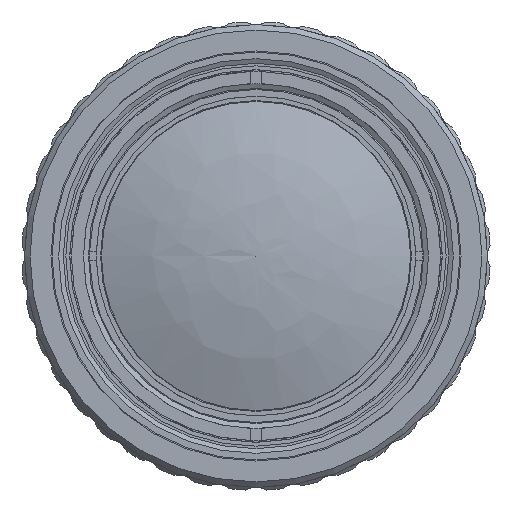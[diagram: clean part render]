
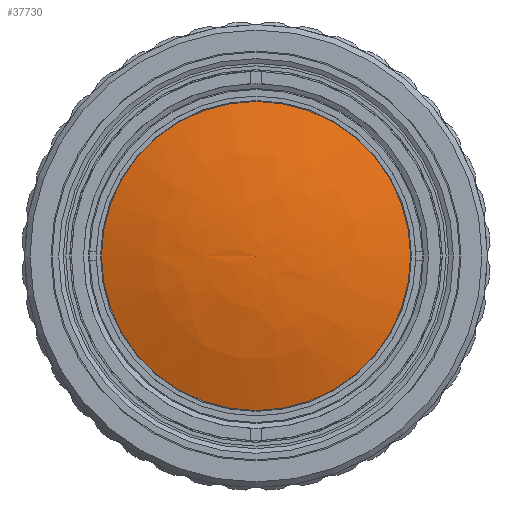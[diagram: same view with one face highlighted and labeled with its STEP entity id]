
A CAD part, left-side view. The second image highlights one B-rep face of the part: STEP entity #37730.
In plain terms, the highlighted face is a revolution surface.
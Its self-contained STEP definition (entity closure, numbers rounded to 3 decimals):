
#22190=SURFACE_OF_REVOLUTION('',#28494,#22195);
#22195=AXIS1_PLACEMENT('',#107816,#87206);
#22200=VERTEX_LOOP('',#62681);
#28494=B_SPLINE_CURVE_WITH_KNOTS('',3,(#107812,#107813,#107814,#107815),
.UNSPECIFIED.,.F.,.F.,(4,4),(0.,1.),.UNSPECIFIED.);
#34554=FACE_OUTER_BOUND('',#41899,.T.);
#37730=ADVANCED_FACE('',(#34554,#40140),#22190,.F.);
#40140=FACE_BOUND('',#22200,.T.);
#41899=EDGE_LOOP('',(#51590));
#51590=ORIENTED_EDGE('',*,*,#69357,.F.);
#62680=VERTEX_POINT('',#107810);
#62681=VERTEX_POINT('',#107811);
#69357=EDGE_CURVE('',#62680,#62680,#74683,.T.);
#74683=CIRCLE('',#78328,14.146);
#78328=AXIS2_PLACEMENT_3D('',#107809,#87204,#87205);
#87204=DIRECTION('',(1.,0.,0.));
#87205=DIRECTION('',(0.,0.,1.));
#87206=DIRECTION('',(-1.,0.,0.));
#107809=CARTESIAN_POINT('',(-71.363,0.,0.));
#107810=CARTESIAN_POINT('',(-71.363,0.,14.146));
#107811=CARTESIAN_POINT('',(-73.853,0.,0.));
#107812=CARTESIAN_POINT('',(-73.853,0.,0.));
#107813=CARTESIAN_POINT('',(-73.853,4.715,0.));
#107814=CARTESIAN_POINT('',(-73.08,9.43,0.));
#107815=CARTESIAN_POINT('',(-71.363,14.146,0.));
#107816=CARTESIAN_POINT('',(-73.853,0.,0.));
